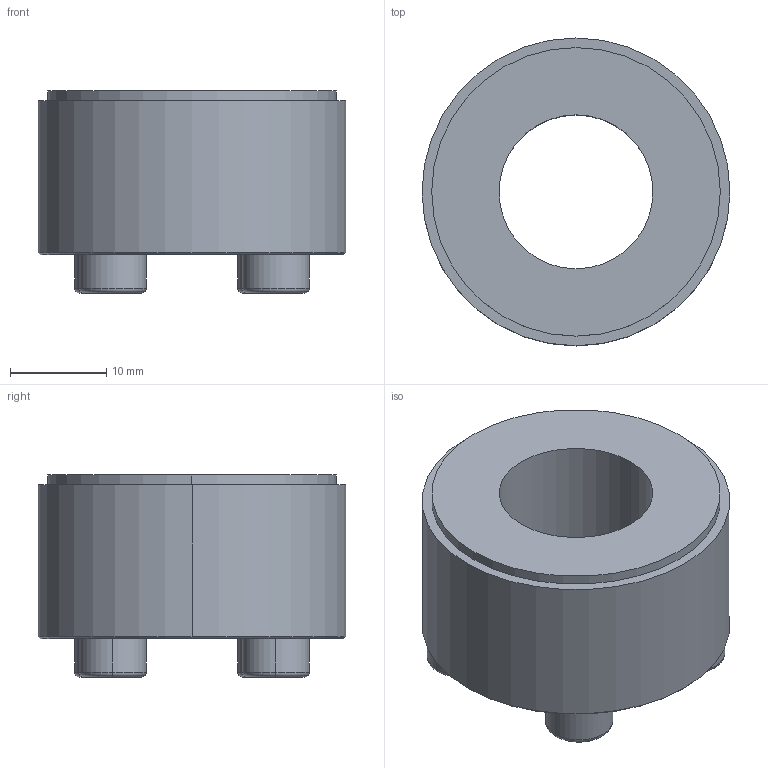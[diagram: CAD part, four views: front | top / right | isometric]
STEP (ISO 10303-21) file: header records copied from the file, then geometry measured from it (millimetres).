
FILE_DESCRIPTION (( 'STEP AP203' ), '1' );
FILE_NAME ('PL-B 16-32.STEP', '2021-10-22T07:45:33', ( '' ), ( '' ), 'SwSTEP 2.0', 'SolidWorks 2018', '' );
FILE_SCHEMA (( 'CONFIG_CONTROL_DESIGN' ));
Length unit declared in the file: millimetre
Products named in the file (1): PL-B 16-32
Bounding box: 32 x 32 x 21 mm (x, y, z)
Volume: 10702.6 mm3; surface area: 4161.6 mm2
Topology: 1 solids, 1 shells, 61 faces, 138 edges, 88 vertices
Faces by surface type: plane 35, cylinder 14, torus 8, cone 4
Entity records: 1785 total; most frequent: DIRECTION 310, CARTESIAN_POINT 288, ORIENTED_EDGE 276, EDGE_CURVE 138, AXIS2_PLACEMENT_3D 110, VECTOR 90, LINE 90, VERTEX_POINT 88
